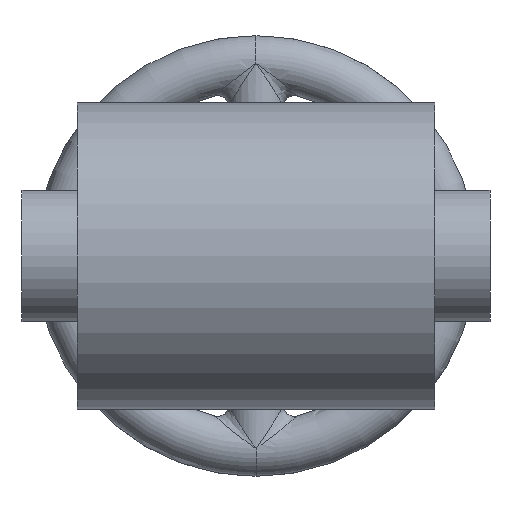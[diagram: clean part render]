
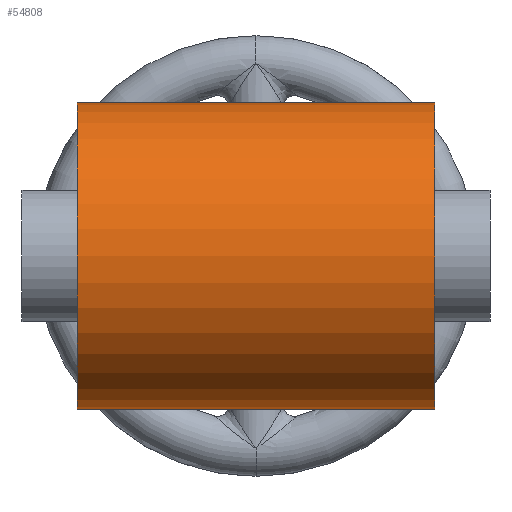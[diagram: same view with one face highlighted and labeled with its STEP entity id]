
A CAD part, front view. The second image highlights one B-rep face of the part: STEP entity #54808.
In plain terms, the highlighted cylindrical face has radius 70.65 mm (diameter 141.3 mm), a partial arc.
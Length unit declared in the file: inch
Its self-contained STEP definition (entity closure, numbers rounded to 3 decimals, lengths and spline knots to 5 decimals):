
#1166 = DIRECTION ( 'NONE',  ( 1., 0., 0. ) ) ;
#5893 = VECTOR ( 'NONE', #28089, 39.37008 ) ;
#7046 = CARTESIAN_POINT ( 'NONE',  ( 3.25, 0., 2.7815 ) ) ;
#10590 = DIRECTION ( 'NONE',  ( 0., 0., 1. ) ) ;
#11137 = EDGE_LOOP ( 'NONE', ( #26884, #41162, #49916, #31812 ) ) ;
#11895 = CARTESIAN_POINT ( 'NONE',  ( -3.2192, 0., 0. ) ) ;
#11927 = AXIS2_PLACEMENT_3D ( 'NONE', #49247, #1166, #38708 ) ;
#12284 = LINE ( 'NONE', #34395, #5893 ) ;
#15534 = CARTESIAN_POINT ( 'NONE',  ( -3.25, 0., 0. ) ) ;
#16496 = DIRECTION ( 'NONE',  ( 0., 0., 1. ) ) ;
#16833 = CYLINDRICAL_SURFACE ( 'NONE', #36173, 2.7815 ) ;
#17444 = CIRCLE ( 'NONE', #19718, 2.7815 ) ;
#19718 = AXIS2_PLACEMENT_3D ( 'NONE', #15534, #21142, #10590 ) ;
#21142 = DIRECTION ( 'NONE',  ( -1., 0., 0. ) ) ;
#25485 = EDGE_CURVE ( 'NONE', #55183, #35137, #26127, .T. ) ;
#25518 = CARTESIAN_POINT ( 'NONE',  ( -3.25, 0., 2.7815 ) ) ;
#26127 = LINE ( 'NONE', #69301, #48890 ) ;
#26884 = ORIENTED_EDGE ( 'NONE', *, *, #25485, .F. ) ;
#28089 = DIRECTION ( 'NONE',  ( -1., 0., 0. ) ) ;
#31812 = ORIENTED_EDGE ( 'NONE', *, *, #65255, .F. ) ;
#32620 = FACE_OUTER_BOUND ( 'NONE', #11137, .T. ) ;
#33576 = CARTESIAN_POINT ( 'NONE',  ( 3.25, 0., -2.7815 ) ) ;
#34104 = EDGE_CURVE ( 'NONE', #62634, #61407, #12284, .T. ) ;
#34395 = CARTESIAN_POINT ( 'NONE',  ( -3.2192, 0., 2.7815 ) ) ;
#34995 = CARTESIAN_POINT ( 'NONE',  ( -3.25, 0., -2.7815 ) ) ;
#35137 = VERTEX_POINT ( 'NONE', #34995 ) ;
#36173 = AXIS2_PLACEMENT_3D ( 'NONE', #11895, #60342, #16496 ) ;
#36573 = CIRCLE ( 'NONE', #11927, 2.7815 ) ;
#38708 = DIRECTION ( 'NONE',  ( 0., 0., -1. ) ) ;
#41162 = ORIENTED_EDGE ( 'NONE', *, *, #62410, .F. ) ;
#48890 = VECTOR ( 'NONE', #58416, 39.37008 ) ;
#49247 = CARTESIAN_POINT ( 'NONE',  ( 3.25, 0., 0. ) ) ;
#49916 = ORIENTED_EDGE ( 'NONE', *, *, #34104, .T. ) ;
#54808 = ADVANCED_FACE ( 'NONE', ( #32620 ), #16833, .T. ) ;
#55183 = VERTEX_POINT ( 'NONE', #33576 ) ;
#58416 = DIRECTION ( 'NONE',  ( -1., 0., 0. ) ) ;
#60342 = DIRECTION ( 'NONE',  ( -1., 0., 0. ) ) ;
#61407 = VERTEX_POINT ( 'NONE', #25518 ) ;
#62410 = EDGE_CURVE ( 'NONE', #62634, #55183, #36573, .T. ) ;
#62634 = VERTEX_POINT ( 'NONE', #7046 ) ;
#65255 = EDGE_CURVE ( 'NONE', #35137, #61407, #17444, .T. ) ;
#69301 = CARTESIAN_POINT ( 'NONE',  ( -3.2192, 0., -2.7815 ) ) ;
